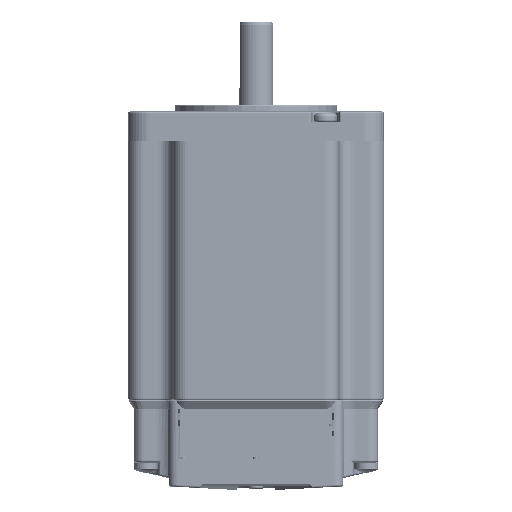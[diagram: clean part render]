
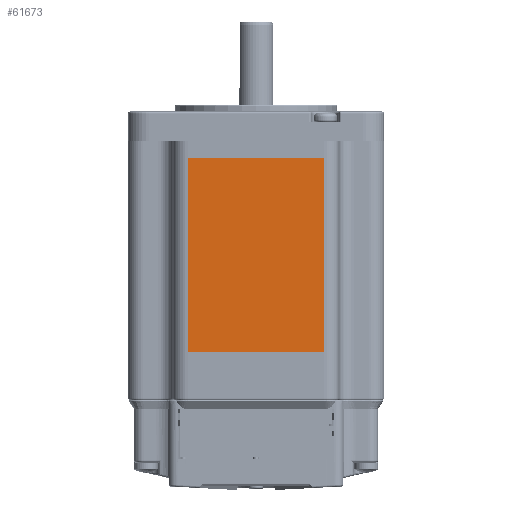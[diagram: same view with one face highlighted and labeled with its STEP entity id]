
A CAD part, left-side view. The second image highlights one B-rep face of the part: STEP entity #61673.
In plain terms, the highlighted planar face has unit normal (-1, 0, 0).
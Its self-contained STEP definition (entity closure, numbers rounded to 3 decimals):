
#49271=DIRECTION('',(0.,1.,0.));
#49272=VECTOR('',#49271,32.);
#49273=CARTESIAN_POINT('',(-30.,-16.,-22.75));
#49274=LINE('',#49273,#49272);
#52499=DIRECTION('',(0.,1.,0.));
#52500=VECTOR('',#52499,32.);
#52501=CARTESIAN_POINT('',(-30.,-16.,22.75));
#52502=LINE('',#52501,#52500);
#52513=DIRECTION('',(0.,0.,1.));
#52514=VECTOR('',#52513,45.5);
#52515=CARTESIAN_POINT('',(-30.,16.,-22.75));
#52516=LINE('',#52515,#52514);
#52737=DIRECTION('',(0.,0.,-1.));
#52738=VECTOR('',#52737,45.5);
#52739=CARTESIAN_POINT('',(-30.,-16.,22.75));
#52740=LINE('',#52739,#52738);
#59024=CARTESIAN_POINT('',(-30.,-16.,-22.75));
#59025=CARTESIAN_POINT('',(-30.,16.,-22.75));
#59026=VERTEX_POINT('',#59024);
#59027=VERTEX_POINT('',#59025);
#59605=CARTESIAN_POINT('',(-30.,16.,22.75));
#59607=VERTEX_POINT('',#59605);
#60186=CARTESIAN_POINT('',(-30.,-16.,22.75));
#60187=VERTEX_POINT('',#60186);
#61659=CARTESIAN_POINT('',(-30.,0.,22.75));
#61660=DIRECTION('',(1.,0.,0.));
#61661=DIRECTION('',(0.,0.,-1.));
#61662=AXIS2_PLACEMENT_3D('',#61659,#61660,#61661);
#61663=PLANE('',#61662);
#61664=ORIENTED_EDGE('',*,*,#60765,.T.);
#61666=ORIENTED_EDGE('',*,*,#61665,.T.);
#61668=ORIENTED_EDGE('',*,*,#61667,.F.);
#61670=ORIENTED_EDGE('',*,*,#61669,.T.);
#61671=EDGE_LOOP('',(#61664,#61666,#61668,#61670));
#61672=FACE_OUTER_BOUND('',#61671,.F.);
#61673=ADVANCED_FACE('',(#61672),#61663,.F.);
#60765=EDGE_CURVE('',#59026,#59027,#49274,.T.);
#61665=EDGE_CURVE('',#59027,#59607,#52516,.T.);
#61667=EDGE_CURVE('',#60187,#59607,#52502,.T.);
#61669=EDGE_CURVE('',#60187,#59026,#52740,.T.);
